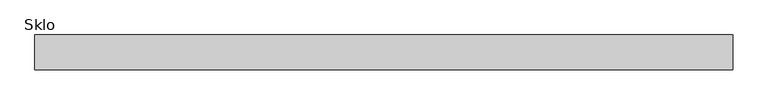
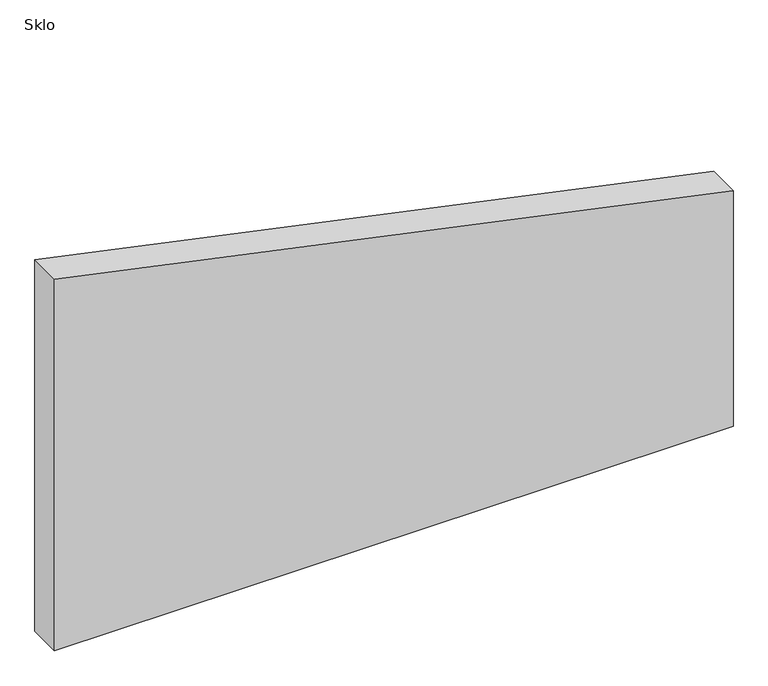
"""IFC4 building model written with IfcOpenShell, lengths in millimetres: plate geometry, Systémový panel : Sklo."""

from ifc_helpers import new_model, si_unit, frame, origin, place, context, project, spatial, polyline, outline, extrude, source, transform, mapped, element, save


def sklo_ce9b099a(model_context):
    return source(origin(), model_context, "Body", "SweptSolid", [
        extrude(outline(polyline([(0.0, -1000.0), (0.0, 1000.0), (733.5169698, 1000.0), (1158.6300932, -1000.0), (0.0, -1000.0)])), frame((0.0, 50.0, 0.0), z_axis=(0.0, 1.0, 0.0), x_axis=(0.0, 0.0, 1.0)), (0.0, 0.0, 1.0), 100.0),
    ])


if __name__ == "__main__":
    model = new_model("IFC4")
    model_context = context("Model", 3, world=origin())
    ifc_project = project(units=[si_unit("LENGTHUNIT", "METRE", prefix="MILLI")], contexts=[model_context])
    site = spatial("IfcSite", under=ifc_project)
    building = spatial("IfcBuilding", under=site)
    placement = place(None, origin())
    sklo_shape = sklo_ce9b099a(model_context)
    element("IfcPlate", 1, ObjectType="Systémový panel : Sklo", at=placement, inside=building, context=model_context, shape_type="MappedRepresentation", body=[
        mapped(sklo_shape, transform((0.0, 0.0, 0.0), x_axis=(1.0, 0.0, 0.0), y_axis=(0.0, 1.0, 0.0), z_axis=(0.0, 0.0, 1.0))),
    ])
    save(model, "model.ifc")
